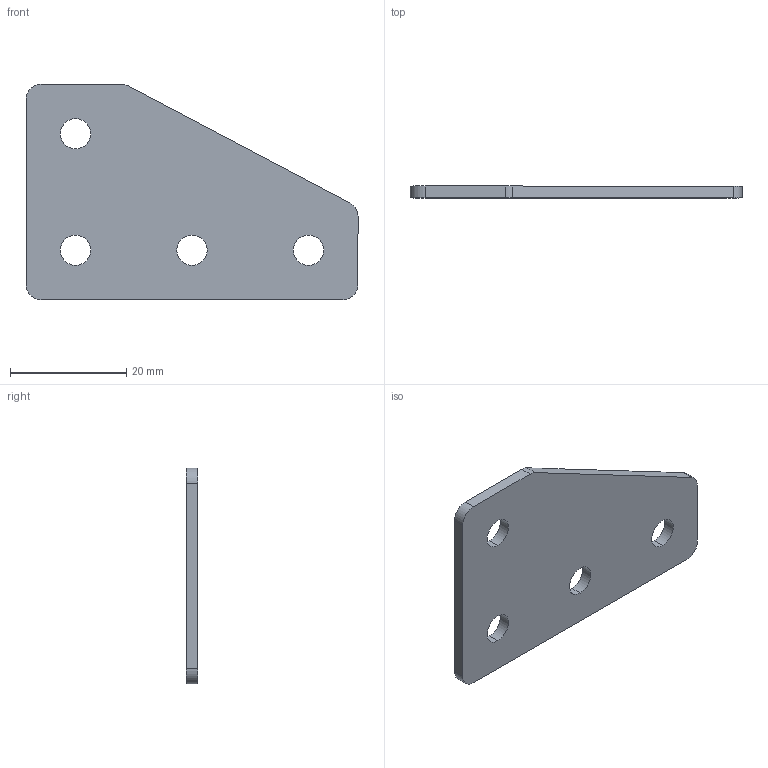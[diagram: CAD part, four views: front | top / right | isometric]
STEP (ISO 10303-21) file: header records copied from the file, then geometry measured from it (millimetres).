
FILE_DESCRIPTION (( 'STEP AP214' ), '1' );
FILE_NAME ('ﾃ-4-ﾓ-20 S2.STEP', '2015-10-16T09:37:02', ( '' ), ( '' ), 'SwSTEP 2.0', 'SolidWorks 2014', '' );
FILE_SCHEMA (( 'AUTOMOTIVE_DESIGN' ));
Length unit declared in the file: millimetre
Products named in the file (1): ﾃ-4-ﾓ-20 S2
Bounding box: 57 x 2 x 37 mm (x, y, z)
Volume: 3195.4 mm3; surface area: 3663 mm2
Topology: 1 solids, 1 shells, 20 faces, 54 edges, 36 vertices
Faces by surface type: cylinder 13, plane 7
Entity records: 694 total; most frequent: DIRECTION 122, CARTESIAN_POINT 111, ORIENTED_EDGE 108, EDGE_CURVE 54, AXIS2_PLACEMENT_3D 47, VERTEX_POINT 36, VECTOR 28, EDGE_LOOP 28
